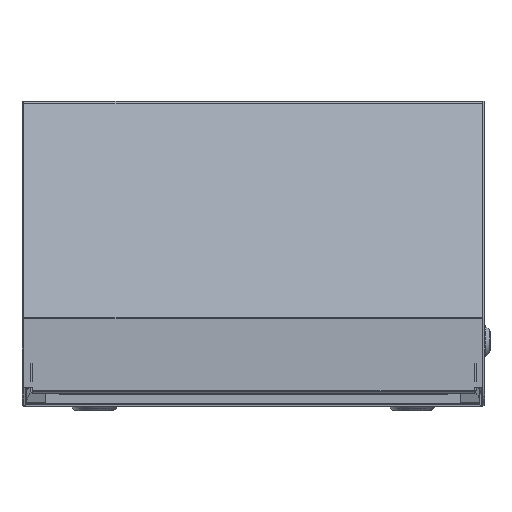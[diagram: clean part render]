
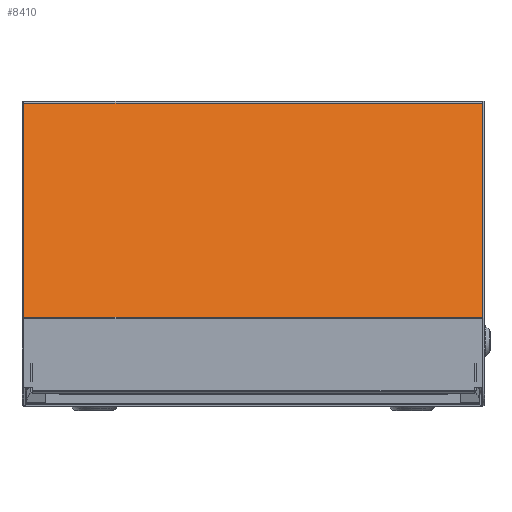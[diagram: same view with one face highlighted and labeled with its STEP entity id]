
A CAD part, front view. The second image highlights one B-rep face of the part: STEP entity #8410.
In plain terms, the highlighted planar face has unit normal (0, -0.966, 0.259) as drawn and (-0.966, 0.259, 0) by its records, which use the part's own axes.
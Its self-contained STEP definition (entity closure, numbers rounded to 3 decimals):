
#8282=CARTESIAN_POINT('',(-282.83,141.5,188.5));
#8283=VERTEX_POINT('',#8282);
#8291=CARTESIAN_POINT('',(-330.006,-34.563,188.5));
#8292=VERTEX_POINT('',#8291);
#8293=CARTESIAN_POINT('',(-330.006,-34.563,188.5));
#8294=DIRECTION('',(0.259,0.966,0.0));
#8295=VECTOR('',#8294,182.274);
#8296=LINE('',#8293,#8295);
#8297=EDGE_CURVE('',#8292,#8283,#8296,.T.);
#8368=CARTESIAN_POINT('',(-330.006,-34.563,-188.5));
#8369=VERTEX_POINT('',#8368);
#8370=CARTESIAN_POINT('',(-330.006,-34.563,-188.5));
#8371=DIRECTION('',(0.0,0.0,1.0));
#8372=VECTOR('',#8371,377.0);
#8373=LINE('',#8370,#8372);
#8374=EDGE_CURVE('',#8369,#8292,#8373,.T.);
#8387=CARTESIAN_POINT('',(-330.006,-34.563,-188.5));
#8388=DIRECTION('',(-0.966,0.259,0.0));
#8389=DIRECTION('',(0.0,0.0,1.0));
#8390=AXIS2_PLACEMENT_3D('',#8387,#8388,#8389);
#8391=PLANE('',#8390);
#8392=ORIENTED_EDGE('',*,*,#8297,.T.);
#8393=CARTESIAN_POINT('',(-282.83,141.5,-188.5));
#8394=VERTEX_POINT('',#8393);
#8395=CARTESIAN_POINT('',(-282.83,141.5,-188.5));
#8396=DIRECTION('',(0.0,0.0,1.0));
#8397=VECTOR('',#8396,377.0);
#8398=LINE('',#8395,#8397);
#8399=EDGE_CURVE('',#8394,#8283,#8398,.T.);
#8400=ORIENTED_EDGE('',*,*,#8399,.F.);
#8401=CARTESIAN_POINT('',(-330.006,-34.563,-188.5));
#8402=DIRECTION('',(0.259,0.966,0.0));
#8403=VECTOR('',#8402,182.274);
#8404=LINE('',#8401,#8403);
#8405=EDGE_CURVE('',#8369,#8394,#8404,.T.);
#8406=ORIENTED_EDGE('',*,*,#8405,.F.);
#8407=ORIENTED_EDGE('',*,*,#8374,.T.);
#8408=EDGE_LOOP('',(#8392,#8400,#8406,#8407));
#8409=FACE_OUTER_BOUND('',#8408,.T.);
#8410=ADVANCED_FACE('',(#8409),#8391,.T.);
